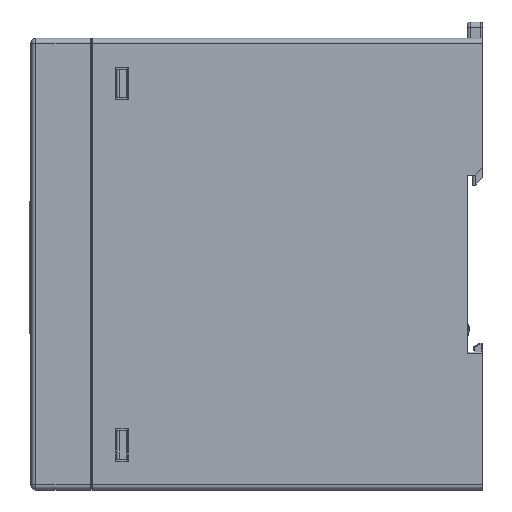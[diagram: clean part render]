
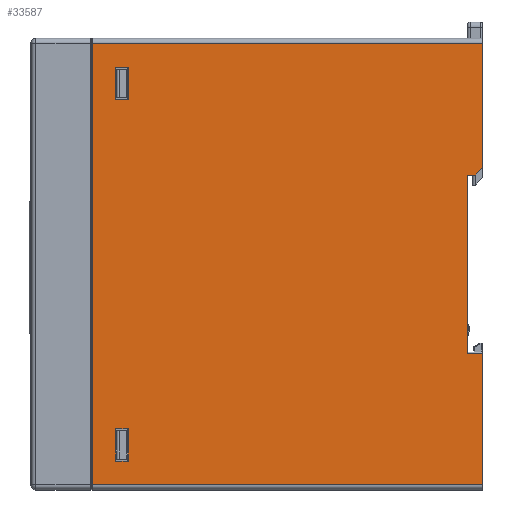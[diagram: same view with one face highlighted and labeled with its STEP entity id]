
A CAD part, left-side view. The second image highlights one B-rep face of the part: STEP entity #33587.
In plain terms, the highlighted planar face has unit normal (-1, 0, 0).
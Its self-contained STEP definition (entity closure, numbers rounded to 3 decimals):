
#2346=DIRECTION('',(0.,0.,1.));
#2347=VECTOR('',#2346,26.05);
#2348=CARTESIAN_POINT('',(-16.8,0.,-44.));
#2349=LINE('',#2348,#2347);
#2354=DIRECTION('',(0.,0.,1.));
#2355=VECTOR('',#2354,24.75);
#2356=CARTESIAN_POINT('',(-16.8,0.,19.25));
#2357=LINE('',#2356,#2355);
#2566=CARTESIAN_POINT('',(-16.8,0.2,-17.95));
#2567=DIRECTION('',(-1.,0.,0.));
#2568=DIRECTION('',(0.,-1.,0.));
#2569=AXIS2_PLACEMENT_3D('',#2566,#2567,#2568);
#7797=DIRECTION('',(0.,-1.,0.));
#7798=VECTOR('',#7797,77.8);
#7799=CARTESIAN_POINT('',(-16.8,77.8,44.));
#7800=LINE('',#7799,#7798);
#7801=DIRECTION('',(0.,-1.,0.));
#7802=VECTOR('',#7801,2.489);
#7803=CARTESIAN_POINT('',(-16.8,73.094,-32.75));
#7804=LINE('',#7803,#7802);
#7805=DIRECTION('',(0.,0.,1.));
#7806=VECTOR('',#7805,6.5);
#7807=CARTESIAN_POINT('',(-16.8,73.094,-39.25));
#7808=LINE('',#7807,#7806);
#7809=DIRECTION('',(0.,1.,0.));
#7810=VECTOR('',#7809,2.489);
#7811=CARTESIAN_POINT('',(-16.8,70.606,-39.25));
#7812=LINE('',#7811,#7810);
#7813=DIRECTION('',(0.,0.,-1.));
#7814=VECTOR('',#7813,6.5);
#7815=CARTESIAN_POINT('',(-16.8,70.606,-32.75));
#7816=LINE('',#7815,#7814);
#7817=DIRECTION('',(0.,0.,1.));
#7818=VECTOR('',#7817,6.5);
#7819=CARTESIAN_POINT('',(-16.8,73.094,32.75));
#7820=LINE('',#7819,#7818);
#7821=DIRECTION('',(0.,1.,0.));
#7822=VECTOR('',#7821,2.489);
#7823=CARTESIAN_POINT('',(-16.8,70.606,32.75));
#7824=LINE('',#7823,#7822);
#7825=DIRECTION('',(0.,0.,-1.));
#7826=VECTOR('',#7825,6.5);
#7827=CARTESIAN_POINT('',(-16.8,70.606,39.25));
#7828=LINE('',#7827,#7826);
#7829=DIRECTION('',(0.,-1.,0.));
#7830=VECTOR('',#7829,2.489);
#7831=CARTESIAN_POINT('',(-16.8,73.094,39.25));
#7832=LINE('',#7831,#7830);
#7833=DIRECTION('',(0.,0.,-1.));
#7834=VECTOR('',#7833,88.);
#7835=CARTESIAN_POINT('',(-16.8,77.8,44.));
#7836=LINE('',#7835,#7834);
#7837=DIRECTION('',(0.,-0.707,0.707));
#7838=VECTOR('',#7837,2.121);
#7839=CARTESIAN_POINT('',(-16.8,1.5,17.75));
#7840=LINE('',#7839,#7838);
#7841=DIRECTION('',(0.,1.,0.));
#7842=VECTOR('',#7841,1.5);
#7843=CARTESIAN_POINT('',(-16.8,1.5,17.75));
#7844=LINE('',#7843,#7842);
#7845=DIRECTION('',(0.,0.,-1.));
#7846=VECTOR('',#7845,35.5);
#7847=CARTESIAN_POINT('',(-16.8,3.,17.75));
#7848=LINE('',#7847,#7846);
#7849=DIRECTION('',(0.,1.,0.));
#7850=VECTOR('',#7849,2.8);
#7851=CARTESIAN_POINT('',(-16.8,0.2,-17.75));
#7852=LINE('',#7851,#7850);
#8407=DIRECTION('',(0.,-1.,0.));
#8408=VECTOR('',#8407,77.8);
#8409=CARTESIAN_POINT('',(-16.8,77.8,-44.));
#8410=LINE('',#8409,#8408);
#17504=CARTESIAN_POINT('',(-16.8,0.,44.));
#17506=VERTEX_POINT('',#17504);
#17511=CARTESIAN_POINT('',(-16.8,0.,-44.));
#17513=VERTEX_POINT('',#17511);
#17515=CARTESIAN_POINT('',(-16.8,3.,17.75));
#17516=CARTESIAN_POINT('',(-16.8,3.,-17.75));
#17517=VERTEX_POINT('',#17515);
#17518=VERTEX_POINT('',#17516);
#17569=CARTESIAN_POINT('',(-16.8,1.5,17.75));
#17570=CARTESIAN_POINT('',(-16.8,0.,19.25));
#17571=VERTEX_POINT('',#17569);
#17572=VERTEX_POINT('',#17570);
#17688=CARTESIAN_POINT('',(-16.8,0.2,-17.75));
#17690=VERTEX_POINT('',#17688);
#17692=CARTESIAN_POINT('',(-16.8,0.,-17.95));
#17694=VERTEX_POINT('',#17692);
#18383=CARTESIAN_POINT('',(-16.8,73.094,-32.75));
#18384=CARTESIAN_POINT('',(-16.8,70.606,-32.75));
#18385=VERTEX_POINT('',#18383);
#18386=VERTEX_POINT('',#18384);
#18387=CARTESIAN_POINT('',(-16.8,70.606,-39.25));
#18388=VERTEX_POINT('',#18387);
#18389=CARTESIAN_POINT('',(-16.8,73.094,-39.25));
#18390=VERTEX_POINT('',#18389);
#18391=CARTESIAN_POINT('',(-16.8,73.094,32.75));
#18392=CARTESIAN_POINT('',(-16.8,73.094,39.25));
#18393=VERTEX_POINT('',#18391);
#18394=VERTEX_POINT('',#18392);
#18395=CARTESIAN_POINT('',(-16.8,70.606,39.25));
#18396=VERTEX_POINT('',#18395);
#18397=CARTESIAN_POINT('',(-16.8,70.606,32.75));
#18398=VERTEX_POINT('',#18397);
#19973=CARTESIAN_POINT('',(-16.8,77.8,-44.));
#19974=VERTEX_POINT('',#19973);
#19975=CARTESIAN_POINT('',(-16.8,77.8,44.));
#19976=VERTEX_POINT('',#19975);
#33546=CARTESIAN_POINT('',(-16.8,0.,-45.));
#33547=DIRECTION('',(-1.,0.,0.));
#33548=DIRECTION('',(0.,0.,1.));
#33549=AXIS2_PLACEMENT_3D('',#33546,#33547,#33548);
#33550=PLANE('',#33549);
#33552=ORIENTED_EDGE('',*,*,#33551,.F.);
#33553=ORIENTED_EDGE('',*,*,#33541,.T.);
#33554=ORIENTED_EDGE('',*,*,#25911,.F.);
#33556=ORIENTED_EDGE('',*,*,#33555,.F.);
#33558=ORIENTED_EDGE('',*,*,#33557,.T.);
#33559=ORIENTED_EDGE('',*,*,#26219,.T.);
#33560=ORIENTED_EDGE('',*,*,#26046,.F.);
#33561=ORIENTED_EDGE('',*,*,#26113,.F.);
#33562=ORIENTED_EDGE('',*,*,#25854,.F.);
#33564=ORIENTED_EDGE('',*,*,#33563,.F.);
#33565=EDGE_LOOP('',(#33552,#33553,#33554,#33556,#33558,#33559,#33560,#33561,
#33562,#33564));
#33566=FACE_OUTER_BOUND('',#33565,.F.);
#33568=ORIENTED_EDGE('',*,*,#33567,.F.);
#33570=ORIENTED_EDGE('',*,*,#33569,.F.);
#33572=ORIENTED_EDGE('',*,*,#33571,.F.);
#33574=ORIENTED_EDGE('',*,*,#33573,.F.);
#33575=EDGE_LOOP('',(#33568,#33570,#33572,#33574));
#33576=FACE_BOUND('',#33575,.F.);
#33578=ORIENTED_EDGE('',*,*,#33577,.F.);
#33580=ORIENTED_EDGE('',*,*,#33579,.F.);
#33582=ORIENTED_EDGE('',*,*,#33581,.F.);
#33584=ORIENTED_EDGE('',*,*,#33583,.F.);
#33585=EDGE_LOOP('',(#33578,#33580,#33582,#33584));
#33586=FACE_BOUND('',#33585,.F.);
#33587=ADVANCED_FACE('',(#33566,#33576,#33586),#33550,.T.);
#2570=CIRCLE('',#2569,0.2);
#25854=EDGE_CURVE('',#17513,#17694,#2349,.T.);
#25911=EDGE_CURVE('',#17572,#17506,#2357,.T.);
#26046=EDGE_CURVE('',#17690,#17518,#7852,.T.);
#26113=EDGE_CURVE('',#17694,#17690,#2570,.T.);
#26219=EDGE_CURVE('',#17517,#17518,#7848,.T.);
#33541=EDGE_CURVE('',#19976,#17506,#7800,.T.);
#33551=EDGE_CURVE('',#19976,#19974,#7836,.T.);
#33555=EDGE_CURVE('',#17571,#17572,#7840,.T.);
#33557=EDGE_CURVE('',#17571,#17517,#7844,.T.);
#33563=EDGE_CURVE('',#19974,#17513,#8410,.T.);
#33567=EDGE_CURVE('',#18393,#18394,#7820,.T.);
#33569=EDGE_CURVE('',#18398,#18393,#7824,.T.);
#33571=EDGE_CURVE('',#18396,#18398,#7828,.T.);
#33573=EDGE_CURVE('',#18394,#18396,#7832,.T.);
#33577=EDGE_CURVE('',#18385,#18386,#7804,.T.);
#33579=EDGE_CURVE('',#18390,#18385,#7808,.T.);
#33581=EDGE_CURVE('',#18388,#18390,#7812,.T.);
#33583=EDGE_CURVE('',#18386,#18388,#7816,.T.);
